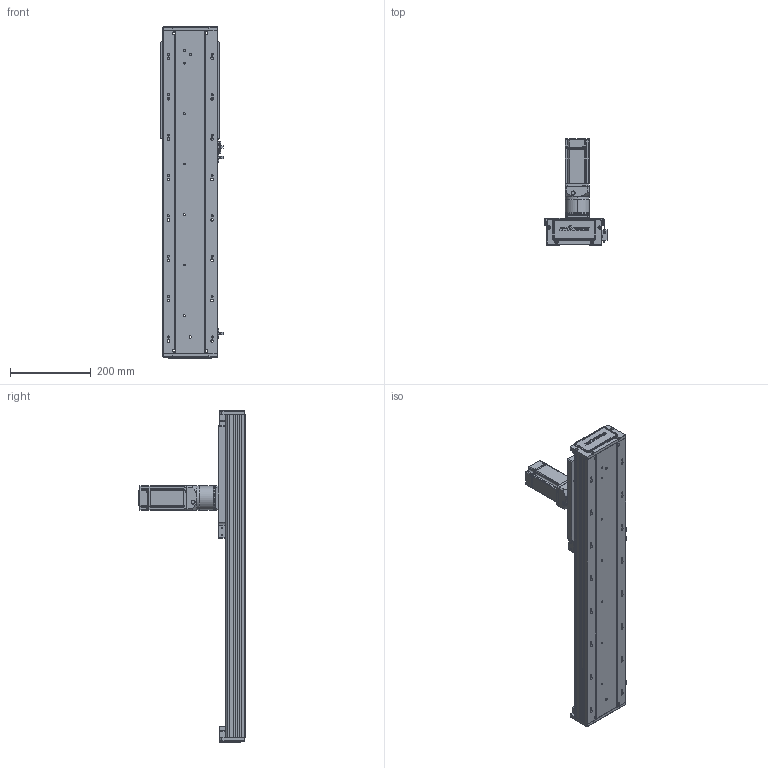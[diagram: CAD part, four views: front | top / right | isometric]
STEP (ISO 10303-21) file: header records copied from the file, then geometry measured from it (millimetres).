
FILE_DESCRIPTION (( 'STEP AP203' ), '1' );
FILE_NAME ('RY140-C-250-UK.SLDASM_450.step', '2022-03-12T01:58:15', ( '' ), ( '' ), 'SwSTEP 2.0', 'SolidWorks 2016', '' );
FILE_SCHEMA (( 'CONFIG_CONTROL_DESIGN' ));
Length unit declared in the file: millimetre
Products named in the file (12): 140蚥薯蝶輸; 絳寢賑輸EGH15; RY140-喘沭賑輸; 覜茼ん672; RY120外置感应片(140共用）; RY140-喘沭裔啣; RY140-喘謫萇儂覃誹啣; RY140-C-250-UK.SLDASM_450; RY140-300齿条模组型材底座_450; 60ZDF珨撰俋倛芞T1 200W M4; RY140-絳寢EGH15-300-MK_450; 15
Assembly tree (21 placements, depth 2):
  RY140-C-250-UK.SLDASM_450
    RY140-300齿条模组型材底座_450
    RY140-絳寢EGH15-300-MK_450  x2
    絳寢賑輸EGH15  x6
    RY140-喘沭裔啣  x2
    覜茼ん672  x3
    RY140-喘沭賑輸
    RY120外置感应片(140共用）
    RY140-喘謫萇儂覃誹啣
    140蚥薯蝶輸  x2
    60ZDF珨撰俋倛芞T1 200W M4
    15
Bounding box: 153.7 x 263.5 x 822 mm (x, y, z)
Volume: 3714256.7 mm3; surface area: 917796.6 mm2
Topology: 21 solids, 21 shells, 3120 faces, 8206 edges, 5324 vertices
Faces by surface type: plane 1618, cylinder 1256, cone 200, bspline 46
Entity records: 67195 total; most frequent: CARTESIAN_POINT 14158, DIRECTION 10799, ORIENTED_EDGE 10658, EDGE_CURVE 5329, AXIS2_PLACEMENT_3D 3786, VERTEX_POINT 3485, VECTOR 3227, LINE 3227
